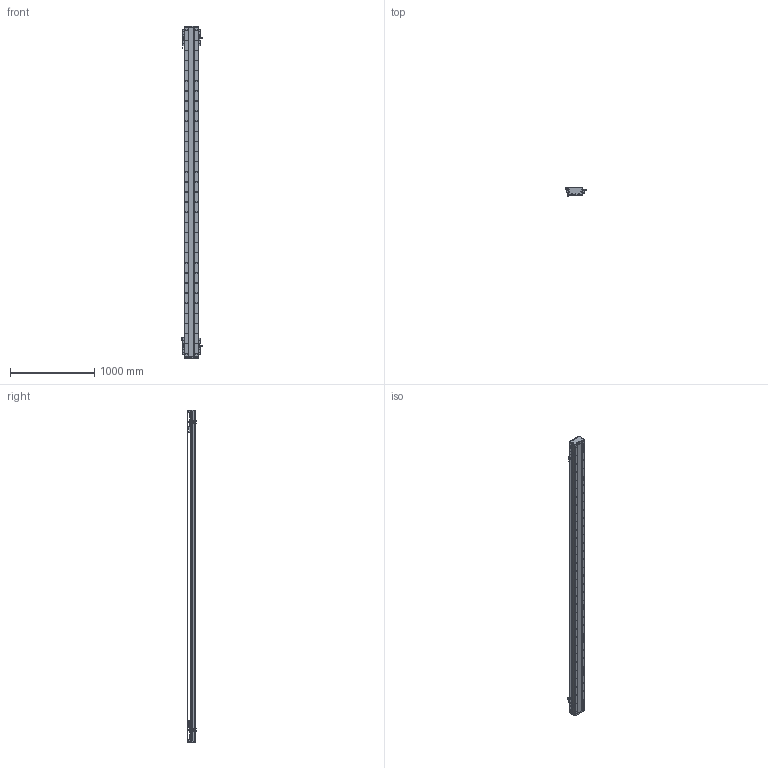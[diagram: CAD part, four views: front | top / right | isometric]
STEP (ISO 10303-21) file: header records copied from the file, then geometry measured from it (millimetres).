
FILE_DESCRIPTION (( 'STEP AP203' ), '1' );
FILE_NAME ('DA-C165-2-C2-T3440-C010-0.2 直线电机.STEP', '2023-05-11T08:36:46', ( '微软用户' ), ( '微软中国' ), 'SwSTEP 2.0', 'SolidWorks 2019', '' );
FILE_SCHEMA (( 'CONFIG_CONTROL_DESIGN' ));
Length unit declared in the file: millimetre
Products named in the file (22): 复件 XD-U-02L 磁栅尺^DA-C165-C2-T-C010-0.2-N 直线电机_T; 葩璃 PM-T45^DA-C165-C2-T-C010-0.2-N 眻盄萇儂; 复件 DMA-010-0.2 读数头^DA-C165-C2-T-C010-0.2-N 直线电机; 复件 DKW-HXJ-JY-00 缓冲橡胶^DA-C165-C2-T-C010-0.2-N 直线电机; 复件 DA165-GD-DG-H-00 端盖^复件 CU165钢带组件_DA-C165-C2-T-C010-0.2-N 直线电机; 复件 DA165-GDYK-00 钢带压块^复件 CU165钢带组件_DA-C165-C2-T-C010-0.2-N 直线电机; 复件 六角薄螺母 M3^DA-C165-C2-T-C010-0.2-N 直线电机_GB_FASTENER_NUT_STNAB M3-C; 葩璃 CKM01-W075-TRL^DA-C165-C2-T-C010-0.2-N 眻盄萇儂; 复件 CU165钢带组件^DA-C165-C2-T-C010-0.2-N 直线电机; 复件 DA165-GYP-00 光电感应片^DA-C165-C2-T-C010-0.2-N 直线电机; 葩璃 DA95-GT-T-00^IU-CU165-L 菁釱絳寢_T; DA-C165-2-C2-T3440-C010-0.2 眻盄萇儂; IU-CU165-L 菁釱絳寢; 复件 DA126-GYP-ZJ-00 中间光电感应片^DA-C165-C2-T-C010-0.2-N 直线电机; IU-CU165-L-00 菁釱_L3900; 珨极趙賑雄怢啣wf-C2; 葩璃 PM-Y45^DA-C165-C2-T-C010-0.2-N 眻盄萇儂; 复件 CKM02-W075-C1C2-TP-3.0 一体电机-C2^DA-C165-C2-T-C010-0.2-N 直线电机; 复件 DA95-HXJ-00 缓冲橡胶^DA-C165-C2-T-C010-0.2-N 直线电机; 复件 DA165-GD-1860-002-00 钢带盖板^复件 CU165钢带组件_DA-C165-C2-T-C010-0.2-N 直线电机; 复件 66338-1000-006-00 光电感应块^DA-C165-C2-T-C010-0.2-N 直线电机; 复件 DA165-GDLK-00 钢带拉块^复件 CU165钢带组件_DA-C165-C2-T-C010-0.2-N 直线电机
Assembly tree (43 placements, depth 3):
  DA-C165-2-C2-T3440-C010-0.2 眻盄萇儂
    IU-CU165-L 菁釱絳寢
      IU-CU165-L-00 菁釱_L3900
      葩璃 DA95-GT-T-00^IU-CU165-L 菁釱絳寢_T  x4
    复件 XD-U-02L 磁栅尺^DA-C165-C2-T-C010-0.2-N 直线电机_T
    葩璃 PM-T45^DA-C165-C2-T-C010-0.2-N 眻盄萇儂  x4
    葩璃 CKM01-W075-TRL^DA-C165-C2-T-C010-0.2-N 眻盄萇儂
    复件 CU165钢带组件^DA-C165-C2-T-C010-0.2-N 直线电机
      复件 DA165-GD-DG-H-00 端盖^复件 CU165钢带组件_DA-C165-C2-T-C010-0.2-N 直线电机  x2
      复件 DA165-GDYK-00 钢带压块^复件 CU165钢带组件_DA-C165-C2-T-C010-0.2-N 直线电机  x2
      复件 DA165-GD-1860-002-00 钢带盖板^复件 CU165钢带组件_DA-C165-C2-T-C010-0.2-N 直线电机
      复件 DA165-GDLK-00 钢带拉块^复件 CU165钢带组件_DA-C165-C2-T-C010-0.2-N 直线电机  x2
    复件 DA95-HXJ-00 缓冲橡胶^DA-C165-C2-T-C010-0.2-N 直线电机  x4
    复件 CKM02-W075-C1C2-TP-3.0 一体电机-C2^DA-C165-C2-T-C010-0.2-N 直线电机  x2
    复件 DMA-010-0.2 读数头^DA-C165-C2-T-C010-0.2-N 直线电机  x2
    复件 DA165-GYP-00 光电感应片^DA-C165-C2-T-C010-0.2-N 直线电机  x2
    复件 66338-1000-006-00 光电感应块^DA-C165-C2-T-C010-0.2-N 直线电机
    葩璃 PM-Y45^DA-C165-C2-T-C010-0.2-N 眻盄萇儂
    复件 DA126-GYP-ZJ-00 中间光电感应片^DA-C165-C2-T-C010-0.2-N 直线电机
    复件 DKW-HXJ-JY-00 缓冲橡胶^DA-C165-C2-T-C010-0.2-N 直线电机  x2
    复件 六角薄螺母 M3^DA-C165-C2-T-C010-0.2-N 直线电机_GB_FASTENER_NUT_STNAB M3-C  x6
    珨极趙賑雄怢啣wf-C2  x2
Bounding box: 247.2 x 109.45 x 3940 mm (x, y, z)
Volume: 20394431.2 mm3; surface area: 6393144.2 mm2
Topology: 117 solids, 117 shells, 4977 faces, 14966 edges, 9802 vertices
Faces by surface type: cylinder 3086, plane 1543, cone 260, torus 80, sphere 8
Entity records: 169788 total; most frequent: CARTESIAN_POINT 48557, ORIENTED_EDGE 25740, DIRECTION 24012, EDGE_CURVE 12870, AXIS2_PLACEMENT_3D 9192, VERTEX_POINT 8453, EDGE_LOOP 5767, LINE 5628
